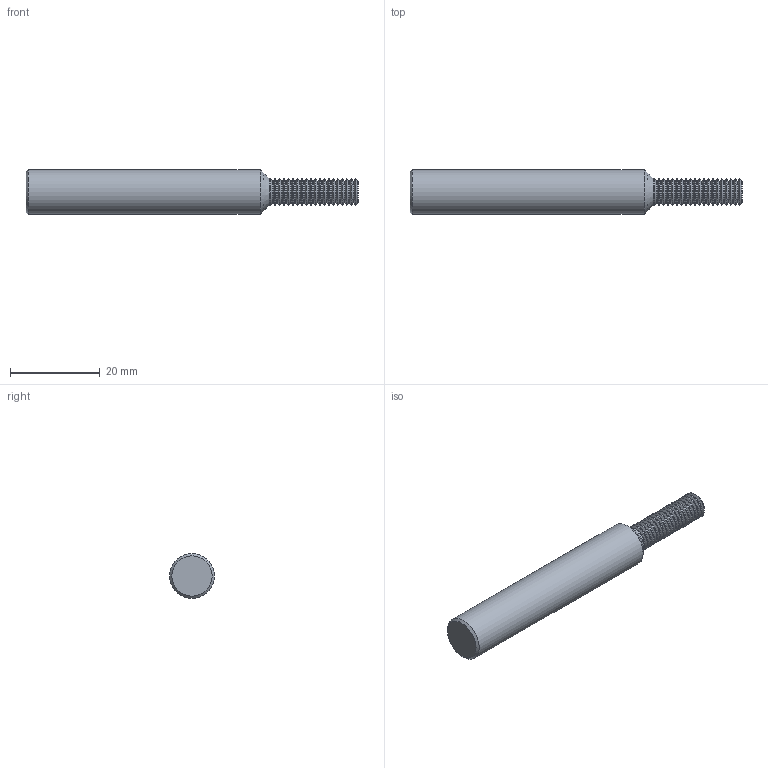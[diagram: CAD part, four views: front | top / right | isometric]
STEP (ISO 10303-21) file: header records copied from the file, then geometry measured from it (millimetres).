
FILE_DESCRIPTION(/* description */ (''),/* implementation_level */ '2;1');
FILE_NAME(/* name */ '00036351-TDM',/* time_stamp */ '2024-02-14T08:15:49+01:00',/* author */ (''),/* organization */ (''),/* preprocessor_version */ 'ST-DEVELOPER v16.5',/* originating_system */ 'HiCAD 2017 2201.0 Build 268',/* authorisation */ '');
FILE_SCHEMA (('AUTOMOTIVE_DESIGN { 1 0 10303 214 1 1 1 1 }'));
Length unit declared in the file: millimetre
Products named in the file (3): Root; ROTATIONSTEIL_0
Assembly tree (2 placements, depth 3):
  Root
    ROTATIONSTEIL_0
      ROTATIONSTEIL_0
Bounding box: 74 x 10 x 10 mm (x, y, z)
Volume: 4638.1 mm3; surface area: 2433.2 mm2
Topology: 2 solids, 2 shells, 126 faces, 249 edges, 127 vertices
Faces by surface type: cone 42, cylinder 41, torus 39, plane 4
Full cylindrical faces by diameter (mm): 4.882 x20, 5.95 x20, 10 x1
Entity records: 3804 total; most frequent: DIRECTION 508, CARTESIAN_POINT 378, AXIS2_PLACEMENT_3D 254, PRESENTATION_STYLE_ASSIGNMENT 250, COLOUR_RGB 250, DRAUGHTING_PRE_DEFINED_CURVE_FONT 248, CURVE_STYLE 248, OVER_RIDING_STYLED_ITEM 248
